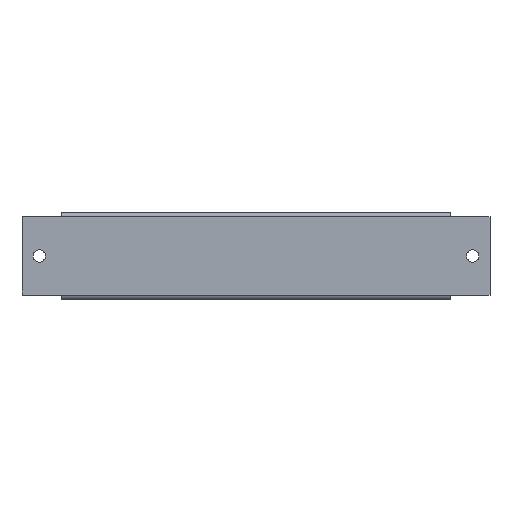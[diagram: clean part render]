
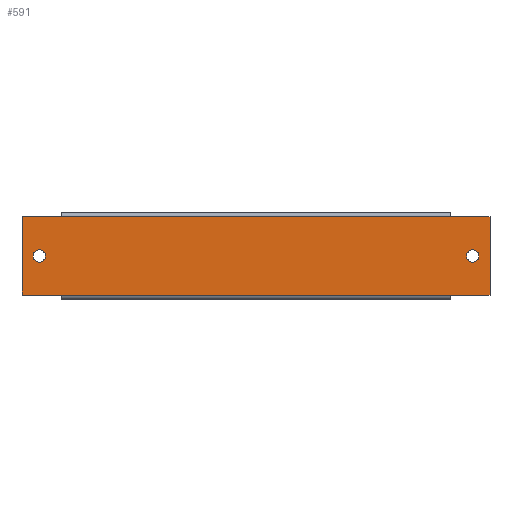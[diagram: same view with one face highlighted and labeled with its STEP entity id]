
A CAD part, top view. The second image highlights one B-rep face of the part: STEP entity #591.
In plain terms, the highlighted planar face has unit normal (0, 0, 1).
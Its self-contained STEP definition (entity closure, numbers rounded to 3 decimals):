
#2 = VERTEX_POINT ( 'NONE', #781 ) ;
#16 = EDGE_CURVE ( 'NONE', #468, #574, #539, .T. ) ;
#19 = DIRECTION ( 'NONE',  ( 1., 0., 0. ) ) ;
#26 = LINE ( 'NONE', #398, #292 ) ;
#28 = CIRCLE ( 'NONE', #509, 3.5 ) ;
#32 = ORIENTED_EDGE ( 'NONE', *, *, #593, .T. ) ;
#40 = VECTOR ( 'NONE', #874, 1000. ) ;
#43 = CARTESIAN_POINT ( 'NONE',  ( -119.25, 0., 1.2 ) ) ;
#56 = DIRECTION ( 'NONE',  ( 1., 0., 0. ) ) ;
#58 = ORIENTED_EDGE ( 'NONE', *, *, #560, .T. ) ;
#59 = FACE_BOUND ( 'NONE', #108, .T. ) ;
#71 = EDGE_CURVE ( 'NONE', #230, #627, #320, .T. ) ;
#74 = EDGE_CURVE ( 'NONE', #724, #219, #28, .T. ) ;
#79 = LINE ( 'NONE', #337, #536 ) ;
#98 = CARTESIAN_POINT ( 'NONE',  ( 132.5, -22.1, 1.2 ) ) ;
#108 = EDGE_LOOP ( 'NONE', ( #684, #839 ) ) ;
#123 = DIRECTION ( 'NONE',  ( 0., 0., 1. ) ) ;
#134 = CARTESIAN_POINT ( 'NONE',  ( -132.5, 22.1, 1.2 ) ) ;
#143 = CARTESIAN_POINT ( 'NONE',  ( -132.5, 22.1, 1.2 ) ) ;
#153 = VECTOR ( 'NONE', #645, 1000. ) ;
#160 = CARTESIAN_POINT ( 'NONE',  ( 122.75, 0., 1.2 ) ) ;
#167 = ORIENTED_EDGE ( 'NONE', *, *, #758, .T. ) ;
#168 = CARTESIAN_POINT ( 'NONE',  ( -122.75, 0., 1.2 ) ) ;
#185 = VECTOR ( 'NONE', #255, 1000. ) ;
#187 = VECTOR ( 'NONE', #341, 1000. ) ;
#203 = ORIENTED_EDGE ( 'NONE', *, *, #74, .T. ) ;
#214 = FACE_OUTER_BOUND ( 'NONE', #621, .T. ) ;
#219 = VERTEX_POINT ( 'NONE', #807 ) ;
#226 = DIRECTION ( 'NONE',  ( 1., 0., 0. ) ) ;
#230 = VERTEX_POINT ( 'NONE', #43 ) ;
#235 = VERTEX_POINT ( 'NONE', #98 ) ;
#239 = DIRECTION ( 'NONE',  ( -1., 0., 0. ) ) ;
#254 = EDGE_CURVE ( 'NONE', #452, #798, #663, .T. ) ;
#255 = DIRECTION ( 'NONE',  ( 1., 0., 0. ) ) ;
#258 = VECTOR ( 'NONE', #437, 1000. ) ;
#259 = VERTEX_POINT ( 'NONE', #436 ) ;
#262 = CARTESIAN_POINT ( 'NONE',  ( -132.5, -24.5, 1.2 ) ) ;
#292 = VECTOR ( 'NONE', #683, 1000. ) ;
#297 = CARTESIAN_POINT ( 'NONE',  ( -132.5, -22.1, 1.2 ) ) ;
#307 = ORIENTED_EDGE ( 'NONE', *, *, #855, .T. ) ;
#320 = CIRCLE ( 'NONE', #527, 3.5 ) ;
#337 = CARTESIAN_POINT ( 'NONE',  ( 110.2, 22.1, 1.2 ) ) ;
#341 = DIRECTION ( 'NONE',  ( -1., 0., 0. ) ) ;
#359 = LINE ( 'NONE', #605, #185 ) ;
#362 = EDGE_LOOP ( 'NONE', ( #167, #203 ) ) ;
#386 = EDGE_CURVE ( 'NONE', #259, #906, #650, .T. ) ;
#398 = CARTESIAN_POINT ( 'NONE',  ( -132.5, 24.5, 1.2 ) ) ;
#406 = CARTESIAN_POINT ( 'NONE',  ( 122.75, 0., 1.2 ) ) ;
#424 = CARTESIAN_POINT ( 'NONE',  ( -110.2, -22.1, 1.2 ) ) ;
#436 = CARTESIAN_POINT ( 'NONE',  ( -132.5, -22.1, 1.2 ) ) ;
#437 = DIRECTION ( 'NONE',  ( 1., 0., 0. ) ) ;
#447 = CARTESIAN_POINT ( 'NONE',  ( 132.5, 22.1, 1.2 ) ) ;
#449 = FACE_BOUND ( 'NONE', #362, .T. ) ;
#452 = VERTEX_POINT ( 'NONE', #739 ) ;
#461 = LINE ( 'NONE', #882, #40 ) ;
#468 = VERTEX_POINT ( 'NONE', #447 ) ;
#469 = EDGE_CURVE ( 'NONE', #906, #2, #359, .T. ) ;
#471 = EDGE_CURVE ( 'NONE', #627, #230, #867, .T. ) ;
#486 = DIRECTION ( 'NONE',  ( 1., 0., 0. ) ) ;
#509 = AXIS2_PLACEMENT_3D ( 'NONE', #160, #568, #226 ) ;
#527 = AXIS2_PLACEMENT_3D ( 'NONE', #168, #847, #19 ) ;
#529 = CARTESIAN_POINT ( 'NONE',  ( 110.2, 22.1, 1.2 ) ) ;
#534 = DIRECTION ( 'NONE',  ( 0., 0., 1. ) ) ;
#535 = CARTESIAN_POINT ( 'NONE',  ( -122.75, 0., 1.2 ) ) ;
#536 = VECTOR ( 'NONE', #680, 1000. ) ;
#539 = LINE ( 'NONE', #143, #187 ) ;
#540 = CARTESIAN_POINT ( 'NONE',  ( 119.25, 0., 1.2 ) ) ;
#548 = AXIS2_PLACEMENT_3D ( 'NONE', #535, #123, #56 ) ;
#560 = EDGE_CURVE ( 'NONE', #574, #452, #79, .T. ) ;
#568 = DIRECTION ( 'NONE',  ( 0., 0., -1. ) ) ;
#574 = VERTEX_POINT ( 'NONE', #529 ) ;
#591 = ADVANCED_FACE ( 'NONE', ( #214, #59, #449 ), #886, .T. ) ;
#593 = EDGE_CURVE ( 'NONE', #798, #259, #26, .T. ) ;
#605 = CARTESIAN_POINT ( 'NONE',  ( -110.2, -22.1, 1.2 ) ) ;
#609 = VECTOR ( 'NONE', #239, 1000. ) ;
#610 = ORIENTED_EDGE ( 'NONE', *, *, #674, .T. ) ;
#616 = DIRECTION ( 'NONE',  ( 1., 0., 0. ) ) ;
#621 = EDGE_LOOP ( 'NONE', ( #32, #643, #635, #307, #610, #705, #58, #701 ) ) ;
#627 = VERTEX_POINT ( 'NONE', #763 ) ;
#635 = ORIENTED_EDGE ( 'NONE', *, *, #469, .T. ) ;
#643 = ORIENTED_EDGE ( 'NONE', *, *, #386, .T. ) ;
#645 = DIRECTION ( 'NONE',  ( 1., 0., 0. ) ) ;
#650 = LINE ( 'NONE', #808, #258 ) ;
#656 = CARTESIAN_POINT ( 'NONE',  ( -132.5, 22.1, 1.2 ) ) ;
#663 = LINE ( 'NONE', #656, #609 ) ;
#674 = EDGE_CURVE ( 'NONE', #235, #468, #461, .T. ) ;
#680 = DIRECTION ( 'NONE',  ( -1., 0., 0. ) ) ;
#683 = DIRECTION ( 'NONE',  ( 0., -1., 0. ) ) ;
#684 = ORIENTED_EDGE ( 'NONE', *, *, #71, .F. ) ;
#698 = DIRECTION ( 'NONE',  ( 0., 0., -1. ) ) ;
#701 = ORIENTED_EDGE ( 'NONE', *, *, #254, .T. ) ;
#705 = ORIENTED_EDGE ( 'NONE', *, *, #16, .T. ) ;
#724 = VERTEX_POINT ( 'NONE', #540 ) ;
#739 = CARTESIAN_POINT ( 'NONE',  ( -110.2, 22.1, 1.2 ) ) ;
#758 = EDGE_CURVE ( 'NONE', #219, #724, #826, .T. ) ;
#763 = CARTESIAN_POINT ( 'NONE',  ( -126.25, 0., 1.2 ) ) ;
#774 = AXIS2_PLACEMENT_3D ( 'NONE', #262, #534, #616 ) ;
#781 = CARTESIAN_POINT ( 'NONE',  ( 110.2, -22.1, 1.2 ) ) ;
#798 = VERTEX_POINT ( 'NONE', #134 ) ;
#807 = CARTESIAN_POINT ( 'NONE',  ( 126.25, 0., 1.2 ) ) ;
#808 = CARTESIAN_POINT ( 'NONE',  ( -132.5, -22.1, 1.2 ) ) ;
#826 = CIRCLE ( 'NONE', #871, 3.5 ) ;
#839 = ORIENTED_EDGE ( 'NONE', *, *, #471, .F. ) ;
#843 = LINE ( 'NONE', #297, #153 ) ;
#847 = DIRECTION ( 'NONE',  ( 0., 0., 1. ) ) ;
#855 = EDGE_CURVE ( 'NONE', #2, #235, #843, .T. ) ;
#867 = CIRCLE ( 'NONE', #548, 3.5 ) ;
#871 = AXIS2_PLACEMENT_3D ( 'NONE', #406, #698, #486 ) ;
#874 = DIRECTION ( 'NONE',  ( 0., 1., 0. ) ) ;
#882 = CARTESIAN_POINT ( 'NONE',  ( 132.5, 24.5, 1.2 ) ) ;
#886 = PLANE ( 'NONE',  #774 ) ;
#906 = VERTEX_POINT ( 'NONE', #424 ) ;
